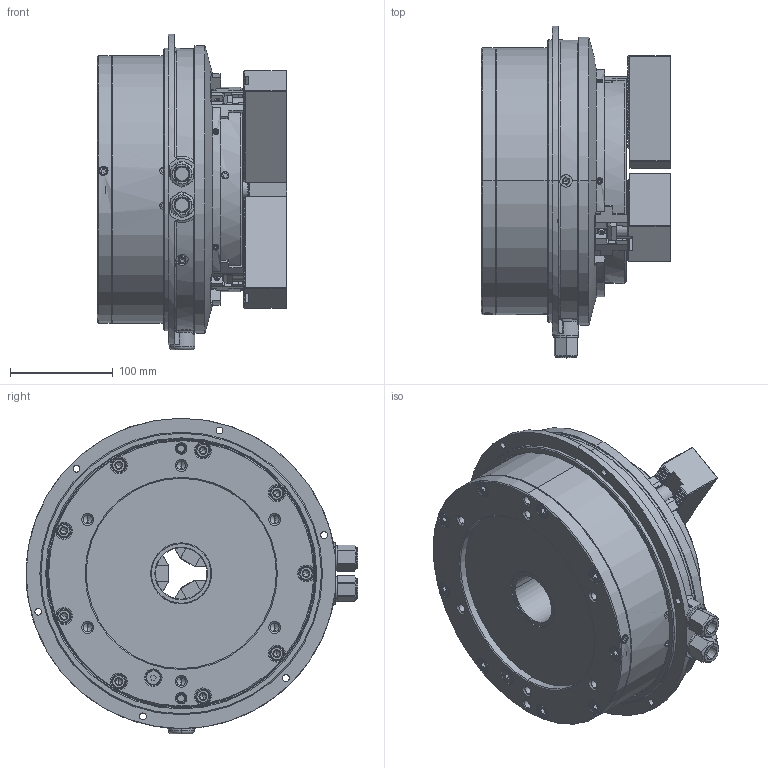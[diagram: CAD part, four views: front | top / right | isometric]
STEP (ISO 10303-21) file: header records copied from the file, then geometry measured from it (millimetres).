
FILE_DESCRIPTION (( 'STEP AP214' ), '1' );
FILE_NAME ('DEV-UVE200K-HUL.STEP', '2024-10-03T00:00:08', ( '' ), ( '' ), 'SwSTEP 2.0', 'SolidWorks 2022', '' );
FILE_SCHEMA (( 'AUTOMOTIVE_DESIGN' ));
Length unit declared in the file: millimetre
Products named in the file (6): DEV-UVE200K-HUL; Copy of 61P401335^DEV-UVE200K-クミタテ; Copy of 0030112030^DEV-UVE200K-クミタテ; Copy of P31633^DEV-UVE200K-クミタテ; Part1^DEV-UVE200K-クミタテ; Copy of 0693000003^DEV-UVE200K-クミタテ
Assembly tree (18 placements, depth 2):
  DEV-UVE200K-HUL
    Copy of P31633^DEV-UVE200K-クミタテ  x3
    Copy of 61P401335^DEV-UVE200K-クミタテ  x6
    Copy of 0030112030^DEV-UVE200K-クミタテ  x6
    Copy of 0693000003^DEV-UVE200K-クミタテ  x2
    Part1^DEV-UVE200K-クミタテ
Bounding box: 184.45 x 323 x 307 mm (x, y, z)
Volume: 7185737 mm3; surface area: 491678.9 mm2
Topology: 18 solids, 47 shells, 5011 faces, 13885 edges, 9072 vertices
Faces by surface type: plane 3143, cylinder 984, cone 548, bspline 257, torus 59, sphere 20
Entity records: 138559 total; most frequent: CARTESIAN_POINT 43215, ORIENTED_EDGE 21524, DIRECTION 17393, EDGE_CURVE 10762, VERTEX_POINT 7057, LINE 7015, VECTOR 7015, AXIS2_PLACEMENT_3D 5189
